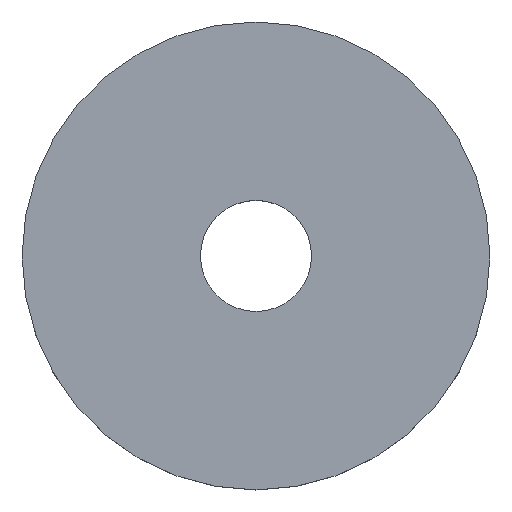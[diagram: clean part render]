
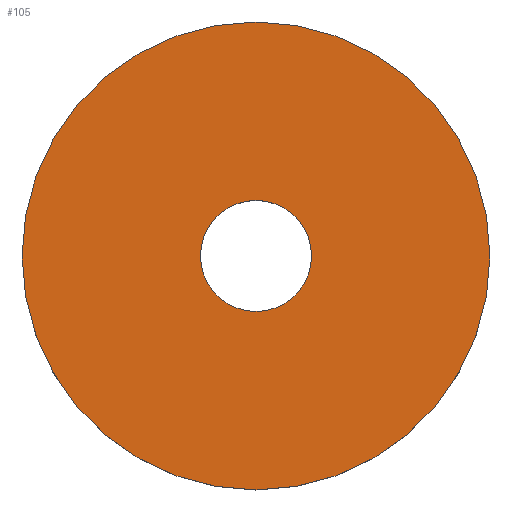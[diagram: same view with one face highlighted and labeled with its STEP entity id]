
A CAD part, top view. The second image highlights one B-rep face of the part: STEP entity #105.
In plain terms, the highlighted planar face has unit normal (0, 0, 1).
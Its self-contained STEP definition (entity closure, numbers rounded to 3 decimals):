
#21 = EDGE_CURVE('',#22,#22,#24,.T.);
#22 = VERTEX_POINT('',#23);
#23 = CARTESIAN_POINT('',(-255.,-265.913,23.5));
#24 = SURFACE_CURVE('',#25,(#30,#42),.PCURVE_S1.);
#25 = CIRCLE('',#26,80.);
#26 = AXIS2_PLACEMENT_3D('',#27,#28,#29);
#27 = CARTESIAN_POINT('',(-335.,-265.913,23.5));
#28 = DIRECTION('',(0.,0.,1.));
#29 = DIRECTION('',(1.,0.,-0.));
#30 = PCURVE('',#31,#36);
#31 = CYLINDRICAL_SURFACE('',#32,80.);
#32 = AXIS2_PLACEMENT_3D('',#33,#34,#35);
#33 = CARTESIAN_POINT('',(-335.,-265.913,2.5));
#34 = DIRECTION('',(0.,0.,1.));
#35 = DIRECTION('',(1.,0.,-0.));
#36 = DEFINITIONAL_REPRESENTATION('',(#37),#41);
#37 = LINE('',#38,#39);
#38 = CARTESIAN_POINT('',(0.,21.));
#39 = VECTOR('',#40,1.);
#40 = DIRECTION('',(1.,0.));
#41 = ( GEOMETRIC_REPRESENTATION_CONTEXT(2) 
PARAMETRIC_REPRESENTATION_CONTEXT() REPRESENTATION_CONTEXT('2D SPACE',''
  ) );
#42 = PCURVE('',#43,#48);
#43 = PLANE('',#44);
#44 = AXIS2_PLACEMENT_3D('',#45,#46,#47);
#45 = CARTESIAN_POINT('',(-335.,-265.913,23.5));
#46 = DIRECTION('',(0.,0.,1.));
#47 = DIRECTION('',(1.,0.,-0.));
#48 = DEFINITIONAL_REPRESENTATION('',(#49),#53);
#49 = CIRCLE('',#50,80.);
#50 = AXIS2_PLACEMENT_2D('',#51,#52);
#51 = CARTESIAN_POINT('',(0.,0.));
#52 = DIRECTION('',(1.,0.));
#53 = ( GEOMETRIC_REPRESENTATION_CONTEXT(2) 
PARAMETRIC_REPRESENTATION_CONTEXT() REPRESENTATION_CONTEXT('2D SPACE',''
  ) );
#105 = ADVANCED_FACE('',(#106,#109),#43,.T.);
#106 = FACE_BOUND('',#107,.T.);
#107 = EDGE_LOOP('',(#108));
#108 = ORIENTED_EDGE('',*,*,#21,.T.);
#109 = FACE_BOUND('',#110,.T.);
#110 = EDGE_LOOP('',(#111));
#111 = ORIENTED_EDGE('',*,*,#112,.F.);
#112 = EDGE_CURVE('',#113,#113,#115,.T.);
#113 = VERTEX_POINT('',#114);
#114 = CARTESIAN_POINT('',(-316.,-265.913,23.5));
#115 = SURFACE_CURVE('',#116,(#121,#128),.PCURVE_S1.);
#116 = CIRCLE('',#117,19.);
#117 = AXIS2_PLACEMENT_3D('',#118,#119,#120);
#118 = CARTESIAN_POINT('',(-335.,-265.913,23.5));
#119 = DIRECTION('',(0.,0.,1.));
#120 = DIRECTION('',(1.,0.,-0.));
#121 = PCURVE('',#43,#122);
#122 = DEFINITIONAL_REPRESENTATION('',(#123),#127);
#123 = CIRCLE('',#124,19.);
#124 = AXIS2_PLACEMENT_2D('',#125,#126);
#125 = CARTESIAN_POINT('',(0.,0.));
#126 = DIRECTION('',(1.,0.));
#127 = ( GEOMETRIC_REPRESENTATION_CONTEXT(2) 
PARAMETRIC_REPRESENTATION_CONTEXT() REPRESENTATION_CONTEXT('2D SPACE',''
  ) );
#128 = PCURVE('',#129,#134);
#129 = CYLINDRICAL_SURFACE('',#130,19.);
#130 = AXIS2_PLACEMENT_3D('',#131,#132,#133);
#131 = CARTESIAN_POINT('',(-335.,-265.913,2.5));
#132 = DIRECTION('',(0.,0.,1.));
#133 = DIRECTION('',(1.,0.,-0.));
#134 = DEFINITIONAL_REPRESENTATION('',(#135),#139);
#135 = LINE('',#136,#137);
#136 = CARTESIAN_POINT('',(0.,21.));
#137 = VECTOR('',#138,1.);
#138 = DIRECTION('',(1.,0.));
#139 = ( GEOMETRIC_REPRESENTATION_CONTEXT(2) 
PARAMETRIC_REPRESENTATION_CONTEXT() REPRESENTATION_CONTEXT('2D SPACE',''
  ) );
